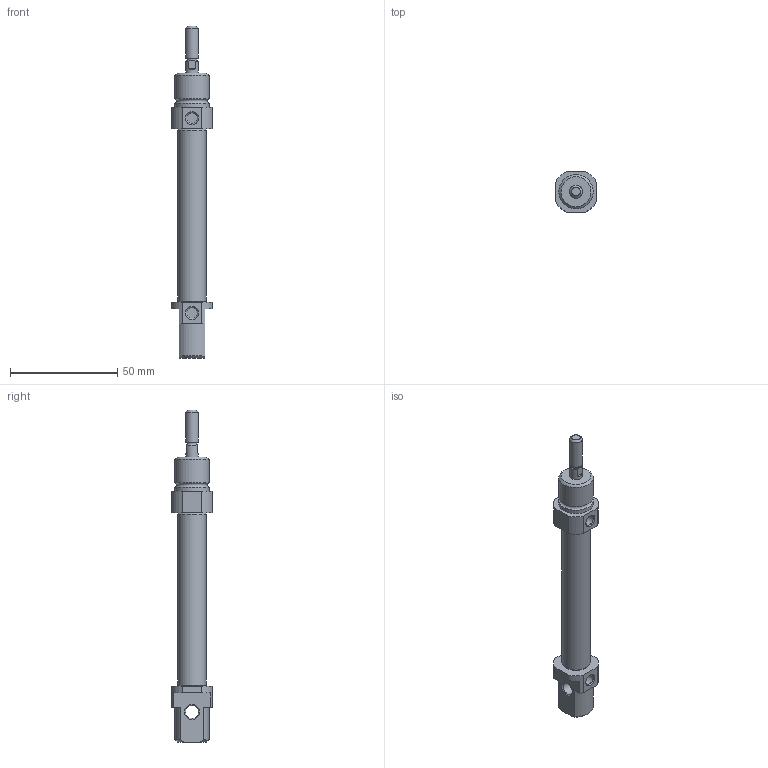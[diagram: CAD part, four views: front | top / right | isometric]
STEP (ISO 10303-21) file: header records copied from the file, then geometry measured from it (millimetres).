
FILE_DESCRIPTION((''),'2;1');
FILE_NAME('I:\3D電子目錄\氣缸\SDA\SDA12\SDA12\SDA12x50.stp','2007-08-06T10:28:21',('Administrator'),(''),'Autodesk Inventor 2008','Autodesk Inventor 2008','');
FILE_SCHEMA(('AUTOMOTIVE_DESIGN { 1 0 10303 214 1 1 1 1 }'));
Length unit declared in the file: millimetre
Products named in the file (1): SDA12X50
Bounding box: 19 x 19 x 155 mm (x, y, z)
Volume: 22623.6 mm3; surface area: 8085.8 mm2
Topology: 1 solids, 1 shells, 60 faces, 138 edges, 88 vertices
Faces by surface type: plane 26, cylinder 19, cone 12, bspline 2, torus 1
Full cylindrical faces by diameter (mm): 4.6 x1, 5 x2, 6 x3, 13.2 x1, 16 x2
Entity records: 1626 total; most frequent: CARTESIAN_POINT 289, DIRECTION 286, ORIENTED_EDGE 238, EDGE_CURVE 119, AXIS2_PLACEMENT_3D 116, EDGE_LOOP 88, VERTEX_POINT 87, FACE_OUTER_BOUND 60
